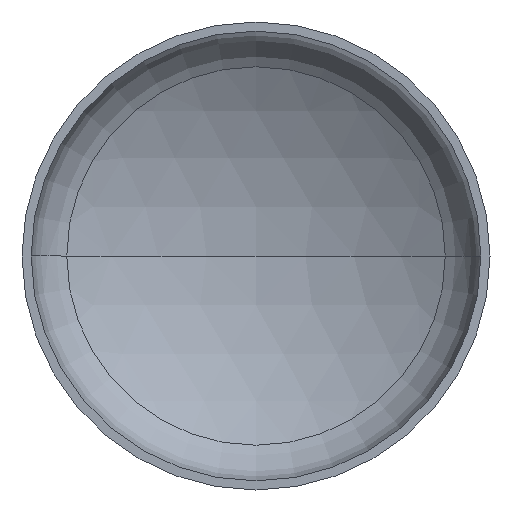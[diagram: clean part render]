
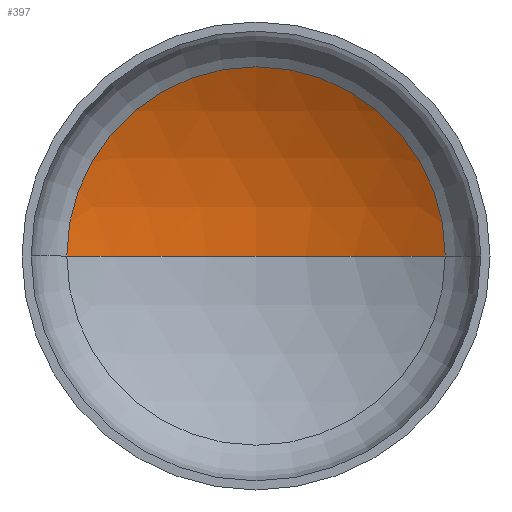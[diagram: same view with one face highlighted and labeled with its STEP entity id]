
A CAD part, front view. The second image highlights one B-rep face of the part: STEP entity #397.
In plain terms, the highlighted spherical face has radius 4400 mm.
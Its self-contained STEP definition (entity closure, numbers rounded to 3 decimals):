
#6 = DIRECTION ( 'NONE',  ( 0., 0., 1. ) ) ;
#7 = CARTESIAN_POINT ( 'NONE',  ( 0., -2992.379, 0. ) ) ;
#50 = DIRECTION ( 'NONE',  ( 0., 0., -1. ) ) ;
#69 = DIRECTION ( 'NONE',  ( -1., 0., 0. ) ) ;
#78 = VERTEX_POINT ( 'NONE', #247 ) ;
#80 = AXIS2_PLACEMENT_3D ( 'NONE', #7, #6, #196 ) ;
#81 = AXIS2_PLACEMENT_3D ( 'NONE', #326, #324, #69 ) ;
#83 = CIRCLE ( 'NONE', #81, 4400. ) ;
#86 = AXIS2_PLACEMENT_3D ( 'NONE', #161, #131, #134 ) ;
#87 = DIRECTION ( 'NONE',  ( -1., 0., 0. ) ) ;
#101 = ORIENTED_EDGE ( 'NONE', *, *, #176, .T. ) ;
#108 = VERTEX_POINT ( 'NONE', #334 ) ;
#115 = ORIENTED_EDGE ( 'NONE', *, *, #181, .T. ) ;
#131 = DIRECTION ( 'NONE',  ( 0., -1., 0. ) ) ;
#134 = DIRECTION ( 'NONE',  ( 1., 0., 0. ) ) ;
#161 = CARTESIAN_POINT ( 'NONE',  ( 0., 804.096, 0. ) ) ;
#176 = EDGE_CURVE ( 'NONE', #108, #219, #202, .T. ) ;
#181 = EDGE_CURVE ( 'NONE', #78, #108, #83, .T. ) ;
#183 = EDGE_LOOP ( 'NONE', ( #205, #115, #101 ) ) ;
#184 = EDGE_CURVE ( 'NONE', #78, #219, #396, .T. ) ;
#196 = DIRECTION ( 'NONE',  ( 1., 0., 0. ) ) ;
#202 = CIRCLE ( 'NONE', #86, 2224.135 ) ;
#205 = ORIENTED_EDGE ( 'NONE', *, *, #184, .F. ) ;
#219 = VERTEX_POINT ( 'NONE', #237 ) ;
#226 = SPHERICAL_SURFACE ( 'NONE', #257, 4400. ) ;
#237 = CARTESIAN_POINT ( 'NONE',  ( -2224.135, 804.096, 0. ) ) ;
#247 = CARTESIAN_POINT ( 'NONE',  ( 0., 1407.621, 0. ) ) ;
#257 = AXIS2_PLACEMENT_3D ( 'NONE', #393, #50, #87 ) ;
#324 = DIRECTION ( 'NONE',  ( 0., 0., -1. ) ) ;
#326 = CARTESIAN_POINT ( 'NONE',  ( 0., -2992.379, 0. ) ) ;
#334 = CARTESIAN_POINT ( 'NONE',  ( 2224.135, 804.096, 0. ) ) ;
#355 = FACE_OUTER_BOUND ( 'NONE', #183, .T. ) ;
#393 = CARTESIAN_POINT ( 'NONE',  ( 0., -2992.379, 0. ) ) ;
#396 = CIRCLE ( 'NONE', #80, 4400. ) ;
#397 = ADVANCED_FACE ( 'NONE', ( #355 ), #226, .F. ) ;
